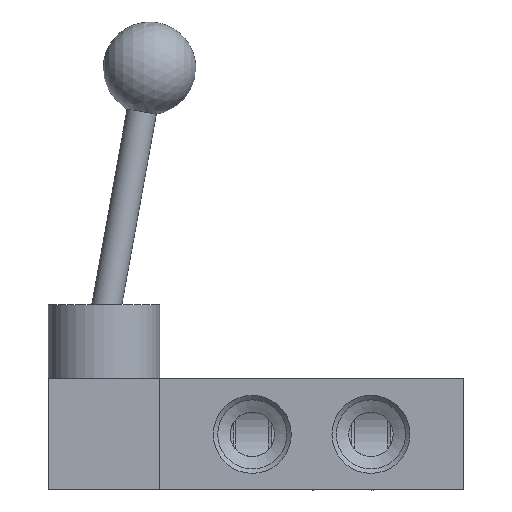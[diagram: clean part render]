
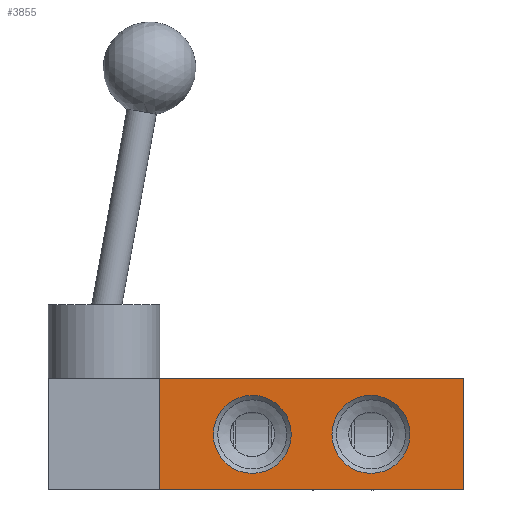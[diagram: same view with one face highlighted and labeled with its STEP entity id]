
A CAD part, front view. The second image highlights one B-rep face of the part: STEP entity #3855.
In plain terms, the highlighted planar face has unit normal (0, -1, 0).
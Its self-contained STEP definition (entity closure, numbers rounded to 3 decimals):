
#260=LINE('',#5375,#458);
#264=LINE('',#5429,#462);
#268=LINE('',#5442,#466);
#269=LINE('',#5443,#467);
#458=VECTOR('',#4537,1000.);
#462=VECTOR('',#4595,1000.);
#466=VECTOR('',#4605,1000.);
#467=VECTOR('',#4606,1000.);
#858=ORIENTED_EDGE('',*,*,#1452,.T.);
#859=ORIENTED_EDGE('',*,*,#1453,.T.);
#860=ORIENTED_EDGE('',*,*,#1448,.F.);
#861=ORIENTED_EDGE('',*,*,#1454,.F.);
#862=ORIENTED_EDGE('',*,*,#1425,.F.);
#863=ORIENTED_EDGE('',*,*,#1455,.F.);
#1425=EDGE_CURVE('',#1749,#1750,#260,.T.);
#1448=EDGE_CURVE('',#1772,#1773,#264,.T.);
#1452=EDGE_CURVE('',#1776,#1776,#1962,.T.);
#1453=EDGE_CURVE('',#1777,#1777,#1963,.T.);
#1454=EDGE_CURVE('',#1750,#1772,#268,.T.);
#1455=EDGE_CURVE('',#1773,#1749,#269,.T.);
#1749=VERTEX_POINT('',#5376);
#1750=VERTEX_POINT('',#5377);
#1772=VERTEX_POINT('',#5430);
#1773=VERTEX_POINT('',#5431);
#1776=VERTEX_POINT('',#5439);
#1777=VERTEX_POINT('',#5441);
#1962=CIRCLE('',#4100,10.516);
#1963=CIRCLE('',#4101,10.516);
#2142=EDGE_LOOP('',(#858));
#2143=EDGE_LOOP('',(#859));
#2144=EDGE_LOOP('',(#860,#861,#862,#863));
#2408=FACE_BOUND('',#2142,.T.);
#2409=FACE_BOUND('',#2143,.T.);
#2410=FACE_BOUND('',#2144,.T.);
#2597=PLANE('',#4099);
#3855=ADVANCED_FACE('',(#2408,#2409,#2410),#2597,.F.);
#4099=AXIS2_PLACEMENT_3D('',#5437,#4599,#4600);
#4100=AXIS2_PLACEMENT_3D('',#5438,#4601,#4602);
#4101=AXIS2_PLACEMENT_3D('',#5440,#4603,#4604);
#4537=DIRECTION('',(0.,0.,-1.));
#4595=DIRECTION('',(0.,0.,1.));
#4599=DIRECTION('',(0.,1.,0.));
#4600=DIRECTION('',(1.,0.,0.));
#4601=DIRECTION('',(0.,1.,0.));
#4602=DIRECTION('',(1.,0.,0.));
#4603=DIRECTION('',(0.,1.,0.));
#4604=DIRECTION('',(1.,0.,0.));
#4605=DIRECTION('',(-1.,0.,0.));
#4606=DIRECTION('',(1.,0.,0.));
#5375=CARTESIAN_POINT('',(0.,-30.,15.));
#5376=CARTESIAN_POINT('',(0.,-30.,15.));
#5377=CARTESIAN_POINT('',(0.,-30.,-15.));
#5429=CARTESIAN_POINT('',(-82.,-30.,-15.));
#5430=CARTESIAN_POINT('',(-82.,-30.,-15.));
#5431=CARTESIAN_POINT('',(-82.,-30.,15.));
#5437=CARTESIAN_POINT('',(-82.,-30.,15.));
#5438=CARTESIAN_POINT('',(-57.,-30.,0.));
#5439=CARTESIAN_POINT('',(-46.485,-30.,0.));
#5440=CARTESIAN_POINT('',(-25.,-30.,0.));
#5441=CARTESIAN_POINT('',(-14.485,-30.,0.));
#5442=CARTESIAN_POINT('',(0.,-30.,-15.));
#5443=CARTESIAN_POINT('',(-82.,-30.,15.));
